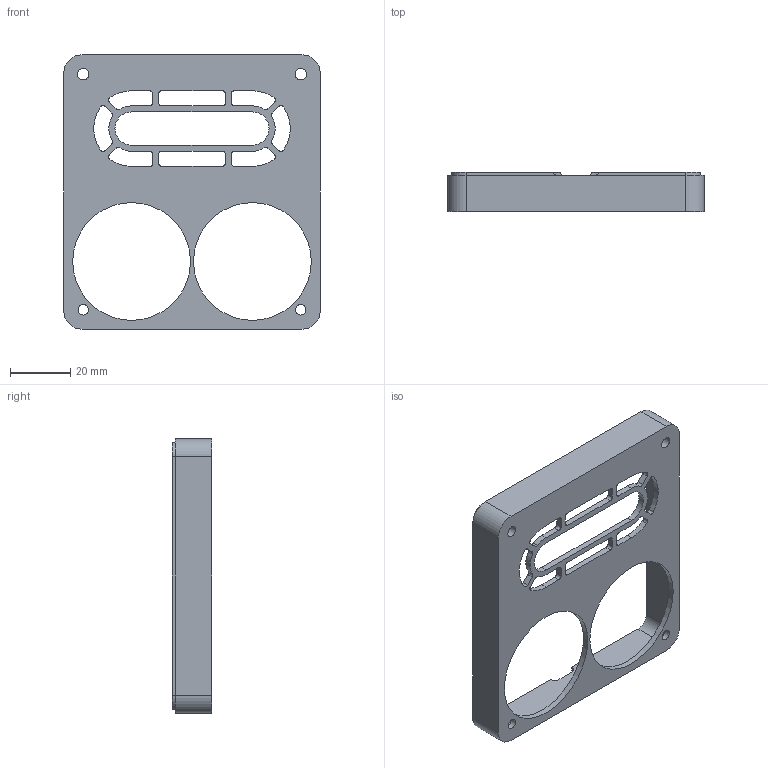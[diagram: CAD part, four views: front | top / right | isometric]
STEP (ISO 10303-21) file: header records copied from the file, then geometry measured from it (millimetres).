
FILE_DESCRIPTION(/* description */ (''),/* implementation_level */ '2;1');
FILE_NAME(/* name */ 'HEATER 2 FAN BACK PANEL.step',/* time_stamp */ '2024-02-28T17:36:09Z',/* author */ (''),/* organization */ (''),/* preprocessor_version */ 'ST-DEVELOPER v20',/* originating_system */ 'Autodesk Translation Framework v12.20.1.177',/* authorisation */ '');
FILE_SCHEMA (('AUTOMOTIVE_DESIGN { 1 0 10303 214 3 1 1 }'));
Length unit declared in the file: millimetre
Products named in the file (1): HEATER 2 FAN BACK PANEL
Bounding box: 84.8 x 13 x 90.8 mm (x, y, z)
Volume: 17774 mm3; surface area: 17755.6 mm2
Topology: 1 solids, 1 shells, 132 faces, 388 edges, 258 vertices
Faces by surface type: plane 56, cylinder 44, bspline 32
Full cylindrical faces by diameter (mm): 3.45 x2, 3.75 x2, 39 x2
Entity records: 6614 total; most frequent: CARTESIAN_POINT 3131, ORIENTED_EDGE 776, DIRECTION 616, EDGE_CURVE 388, VERTEX_POINT 258, LINE 234, VECTOR 234, AXIS2_PLACEMENT_3D 191
